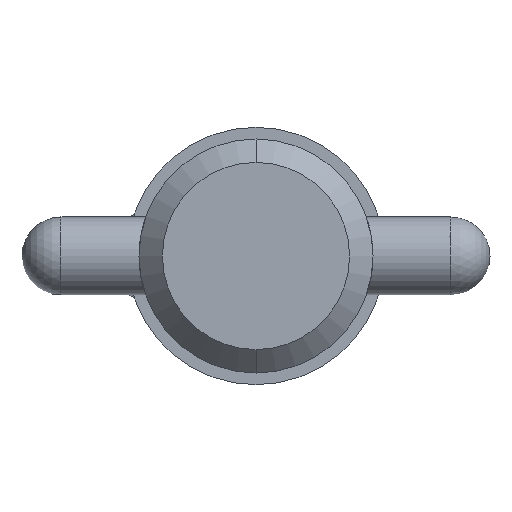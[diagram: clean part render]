
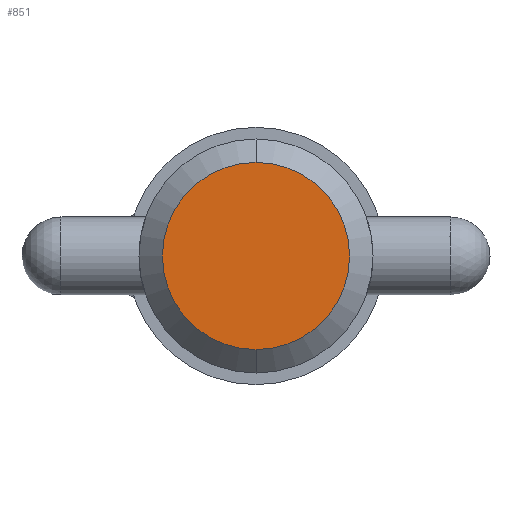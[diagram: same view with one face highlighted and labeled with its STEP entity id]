
A CAD part, left-side view. The second image highlights one B-rep face of the part: STEP entity #851.
In plain terms, the highlighted planar face has unit normal (-1, 0, 0).
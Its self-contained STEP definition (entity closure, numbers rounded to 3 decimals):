
#3 = DIRECTION ( 'NONE',  ( 0., 0., -1. ) ) ;
#36 = EDGE_CURVE ( 'NONE', #48, #199, #906, .T. ) ;
#48 = VERTEX_POINT ( 'NONE', #78 ) ;
#78 = CARTESIAN_POINT ( 'NONE',  ( 0., 0., -7.62 ) ) ;
#112 = AXIS2_PLACEMENT_3D ( 'NONE', #973, #795, #236 ) ;
#162 = EDGE_LOOP ( 'NONE', ( #760, #1020 ) ) ;
#199 = VERTEX_POINT ( 'NONE', #981 ) ;
#236 = DIRECTION ( 'NONE',  ( 0., 0., -1. ) ) ;
#307 = CIRCLE ( 'NONE', #1016, 7.62 ) ;
#418 = EDGE_CURVE ( 'NONE', #199, #48, #307, .T. ) ;
#502 = CARTESIAN_POINT ( 'NONE',  ( 0., 0., 0. ) ) ;
#589 = CARTESIAN_POINT ( 'NONE',  ( 0., 0., 0. ) ) ;
#668 = AXIS2_PLACEMENT_3D ( 'NONE', #589, #674, #921 ) ;
#674 = DIRECTION ( 'NONE',  ( -1., 0., 0. ) ) ;
#735 = DIRECTION ( 'NONE',  ( 1., 0., 0. ) ) ;
#750 = FACE_OUTER_BOUND ( 'NONE', #162, .T. ) ;
#760 = ORIENTED_EDGE ( 'NONE', *, *, #36, .F. ) ;
#795 = DIRECTION ( 'NONE',  ( 1., 0., 0. ) ) ;
#851 = ADVANCED_FACE ( 'NONE', ( #750 ), #941, .T. ) ;
#906 = CIRCLE ( 'NONE', #112, 7.62 ) ;
#921 = DIRECTION ( 'NONE',  ( 0., 0., 1. ) ) ;
#941 = PLANE ( 'NONE',  #668 ) ;
#973 = CARTESIAN_POINT ( 'NONE',  ( 0., 0., 0. ) ) ;
#981 = CARTESIAN_POINT ( 'NONE',  ( 0., 0., 7.62 ) ) ;
#1016 = AXIS2_PLACEMENT_3D ( 'NONE', #502, #735, #3 ) ;
#1020 = ORIENTED_EDGE ( 'NONE', *, *, #418, .F. ) ;
